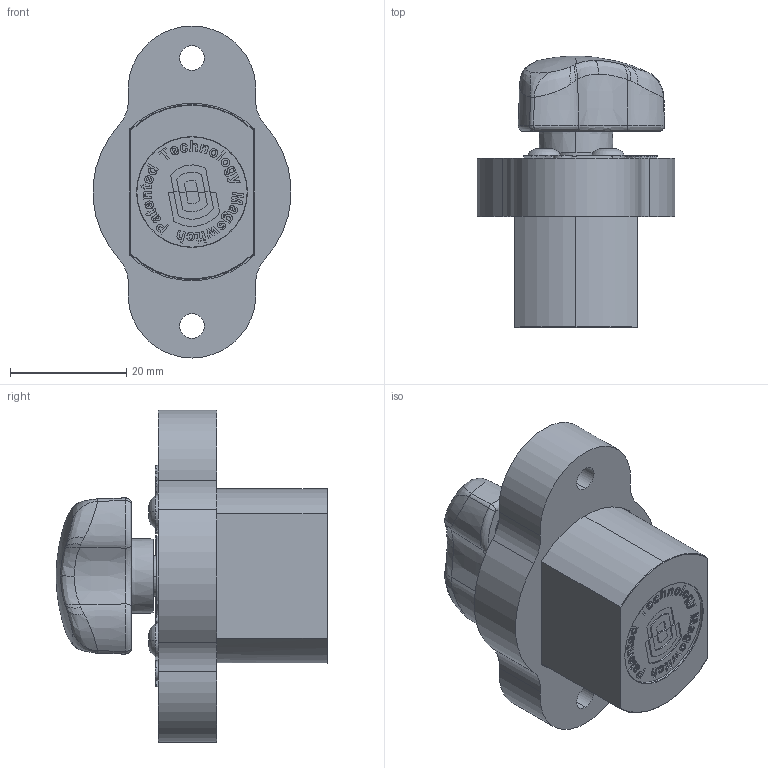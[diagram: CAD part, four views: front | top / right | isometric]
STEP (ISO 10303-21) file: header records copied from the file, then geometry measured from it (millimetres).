
FILE_DESCRIPTION (( 'STEP AP214' ), '1' );
FILE_NAME ('8110004_p.STEP', '2020-03-06T17:38:22', ( '' ), ( '' ), 'SwSTEP 2.0', 'SolidWorks 2018', '' );
FILE_SCHEMA (( 'AUTOMOTIVE_DESIGN' ));
Length unit declared in the file: millimetre
Products named in the file (1): 8110004_p
Bounding box: 33.89 x 46.62 x 57 mm (x, y, z)
Volume: 28943.9 mm3; surface area: 9294.8 mm2
Topology: 1 solids, 2 shells, 1060 faces, 2822 edges, 1848 vertices
Faces by surface type: bspline 475, plane 449, cylinder 68, cone 54, torus 8, sphere 6
Entity records: 67743 total; most frequent: CARTESIAN_POINT 33692, ORIENTED_EDGE 5640, DIRECTION 3088, EDGE_CURVE 2820, VERTEX_POINT 1848, VECTOR 1462, LINE 1462, EDGE_LOOP 1150
